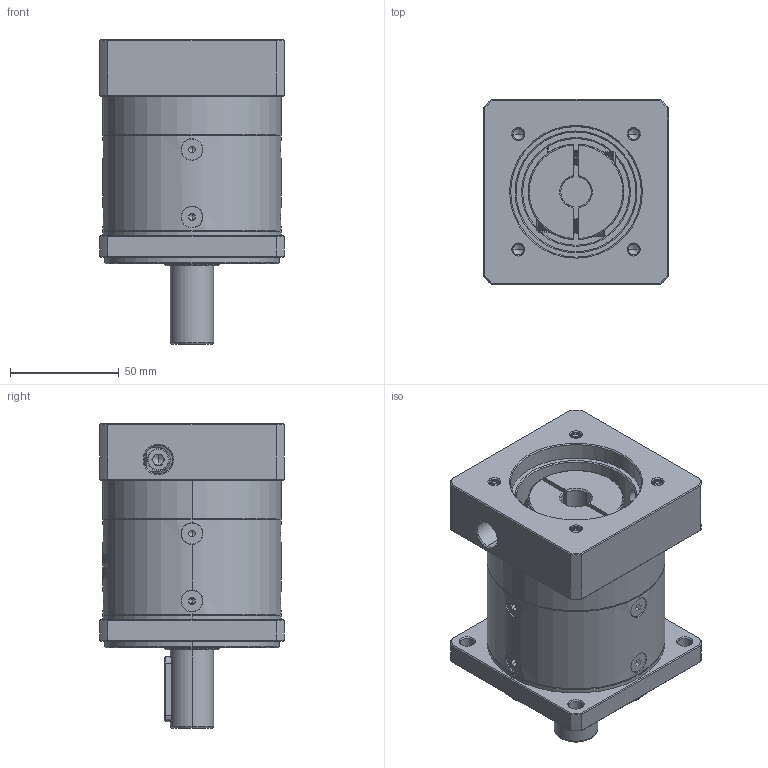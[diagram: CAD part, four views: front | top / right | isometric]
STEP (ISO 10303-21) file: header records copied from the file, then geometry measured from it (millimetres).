
FILE_DESCRIPTION (( 'STEP AP214' ), '1' );
FILE_NAME ('ZF080-D20-L1-P2-14-60-75-M6.step', '2023-08-19T05:27:46', ( '' ), ( '' ), 'SwSTEP 2.0', 'SolidWorks 2016', '' );
FILE_SCHEMA (( 'AUTOMOTIVE_DESIGN' ));
Length unit declared in the file: millimetre
Products named in the file (1): ZF080-D20-L1-P2-14-60-75-M6
Bounding box: 85 x 85 x 140 mm (x, y, z)
Volume: 555490.9 mm3; surface area: 88534.3 mm2
Topology: 13 solids, 13 shells, 2243 faces, 5862 edges, 3718 vertices
Faces by surface type: plane 1071, cylinder 394, bspline 394, cone 347, torus 37
Entity records: 119489 total; most frequent: CARTESIAN_POINT 44756, ORIENTED_EDGE 11664, DIRECTION 8674, EDGE_CURVE 5832, VERTEX_POINT 3718, VECTOR 3094, LINE 3094, AXIS2_PLACEMENT_3D 2790
